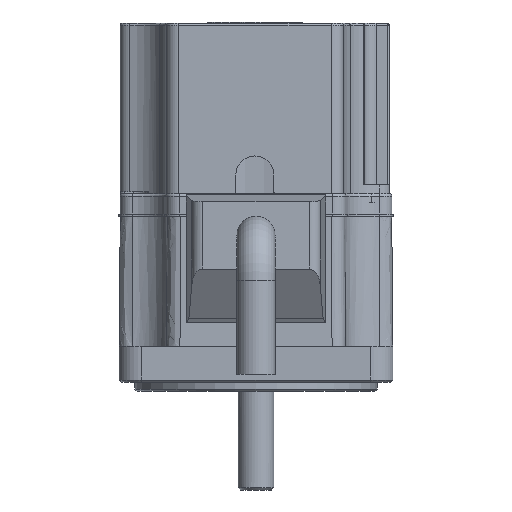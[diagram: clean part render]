
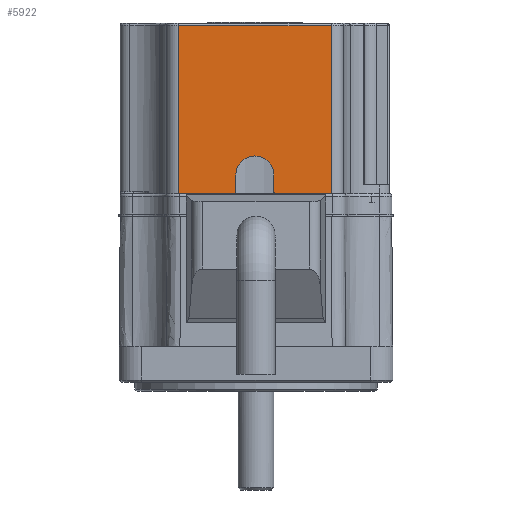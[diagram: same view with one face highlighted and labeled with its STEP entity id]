
A CAD part, front view. The second image highlights one B-rep face of the part: STEP entity #5922.
In plain terms, the highlighted planar face has unit normal (0, -1, 0).
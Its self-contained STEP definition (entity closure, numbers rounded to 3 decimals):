
#338=CARTESIAN_POINT('',(-4.75,-30.,0.0));
#339=VERTEX_POINT('',#338);
#346=CARTESIAN_POINT('',(-17.,-30.,0.0));
#347=VERTEX_POINT('',#346);
#348=CARTESIAN_POINT('',(-17.,-30.,0.0));
#349=DIRECTION('',(1.0,0.0,0.0));
#350=VECTOR('',#349,12.25);
#351=LINE('',#348,#350);
#352=EDGE_CURVE('',#347,#339,#351,.T.);
#649=CARTESIAN_POINT('',(17.,-30.,0.0));
#650=VERTEX_POINT('',#649);
#658=CARTESIAN_POINT('',(4.75,-30.,0.0));
#659=VERTEX_POINT('',#658);
#660=CARTESIAN_POINT('',(4.75,-30.,0.0));
#661=DIRECTION('',(1.0,0.0,0.0));
#662=VECTOR('',#661,12.25);
#663=LINE('',#660,#662);
#664=EDGE_CURVE('',#659,#650,#663,.T.);
#4007=CARTESIAN_POINT('',(4.25,-30.,0.5));
#4008=VERTEX_POINT('',#4007);
#4009=CARTESIAN_POINT('',(4.75,-30.,0.5));
#4010=DIRECTION('',(0.0,1.0,0.0));
#4011=DIRECTION('',(-0.707,0.0,-0.707));
#4012=AXIS2_PLACEMENT_3D('',#4009,#4010,#4011);
#4013=CIRCLE('',#4012,0.5);
#4014=EDGE_CURVE('',#659,#4008,#4013,.T.);
#4096=CARTESIAN_POINT('',(-4.25,-30.,0.5));
#4097=VERTEX_POINT('',#4096);
#4098=CARTESIAN_POINT('',(-4.75,-30.,0.5));
#4099=DIRECTION('',(0.0,1.0,0.0));
#4100=DIRECTION('',(0.707,0.0,-0.707));
#4101=AXIS2_PLACEMENT_3D('',#4098,#4099,#4100);
#4102=CIRCLE('',#4101,0.5);
#4103=EDGE_CURVE('',#4097,#339,#4102,.T.);
#4123=CARTESIAN_POINT('',(-4.25,-30.,4.2));
#4124=VERTEX_POINT('',#4123);
#4131=CARTESIAN_POINT('',(-4.25,-30.,0.5));
#4132=DIRECTION('',(0.0,0.0,1.0));
#4133=VECTOR('',#4132,3.7);
#4134=LINE('',#4131,#4133);
#4135=EDGE_CURVE('',#4097,#4124,#4134,.T.);
#4146=CARTESIAN_POINT('',(4.25,-30.,4.2));
#4147=VERTEX_POINT('',#4146);
#4148=CARTESIAN_POINT('',(4.25,-30.,4.2));
#4149=DIRECTION('',(0.0,0.0,-1.0));
#4150=VECTOR('',#4149,3.7);
#4151=LINE('',#4148,#4150);
#4152=EDGE_CURVE('',#4147,#4008,#4151,.T.);
#4171=CARTESIAN_POINT('',(0.0,-30.,4.2));
#4172=DIRECTION('',(0.0,1.0,0.0));
#4173=DIRECTION('',(1.0,0.0,0.0));
#4174=AXIS2_PLACEMENT_3D('',#4171,#4172,#4173);
#4175=CIRCLE('',#4174,4.25);
#4176=EDGE_CURVE('',#4124,#4147,#4175,.T.);
#5373=CARTESIAN_POINT('',(17.,-30.,37.5));
#5374=VERTEX_POINT('',#5373);
#5407=CARTESIAN_POINT('',(-17.,-30.,37.5));
#5408=VERTEX_POINT('',#5407);
#5416=CARTESIAN_POINT('',(-17.,-30.,37.5));
#5417=DIRECTION('',(1.0,0.0,0.0));
#5418=VECTOR('',#5417,34.);
#5419=LINE('',#5416,#5418);
#5420=EDGE_CURVE('',#5408,#5374,#5419,.T.);
#5889=CARTESIAN_POINT('',(17.,-30.,0.0));
#5890=DIRECTION('',(0.0,0.0,1.0));
#5891=VECTOR('',#5890,37.5);
#5892=LINE('',#5889,#5891);
#5893=EDGE_CURVE('',#650,#5374,#5892,.T.);
#5900=CARTESIAN_POINT('',(-17.,-30.,0.0));
#5901=DIRECTION('',(0.0,-1.0,0.0));
#5902=DIRECTION('',(0.0,0.0,-1.0));
#5903=AXIS2_PLACEMENT_3D('',#5900,#5901,#5902);
#5904=PLANE('',#5903);
#5905=ORIENTED_EDGE('',*,*,#4014,.F.);
#5906=ORIENTED_EDGE('',*,*,#664,.T.);
#5907=ORIENTED_EDGE('',*,*,#5893,.T.);
#5908=ORIENTED_EDGE('',*,*,#5420,.F.);
#5909=CARTESIAN_POINT('',(-17.,-30.,0.0));
#5910=DIRECTION('',(0.0,0.0,1.0));
#5911=VECTOR('',#5910,37.5);
#5912=LINE('',#5909,#5911);
#5913=EDGE_CURVE('',#347,#5408,#5912,.T.);
#5914=ORIENTED_EDGE('',*,*,#5913,.F.);
#5915=ORIENTED_EDGE('',*,*,#352,.T.);
#5916=ORIENTED_EDGE('',*,*,#4103,.F.);
#5917=ORIENTED_EDGE('',*,*,#4135,.T.);
#5918=ORIENTED_EDGE('',*,*,#4176,.T.);
#5919=ORIENTED_EDGE('',*,*,#4152,.T.);
#5920=EDGE_LOOP('',(#5905,#5906,#5907,#5908,#5914,#5915,#5916,#5917,#5918,#5919));
#5921=FACE_OUTER_BOUND('',#5920,.T.);
#5922=ADVANCED_FACE('',(#5921),#5904,.T.);
